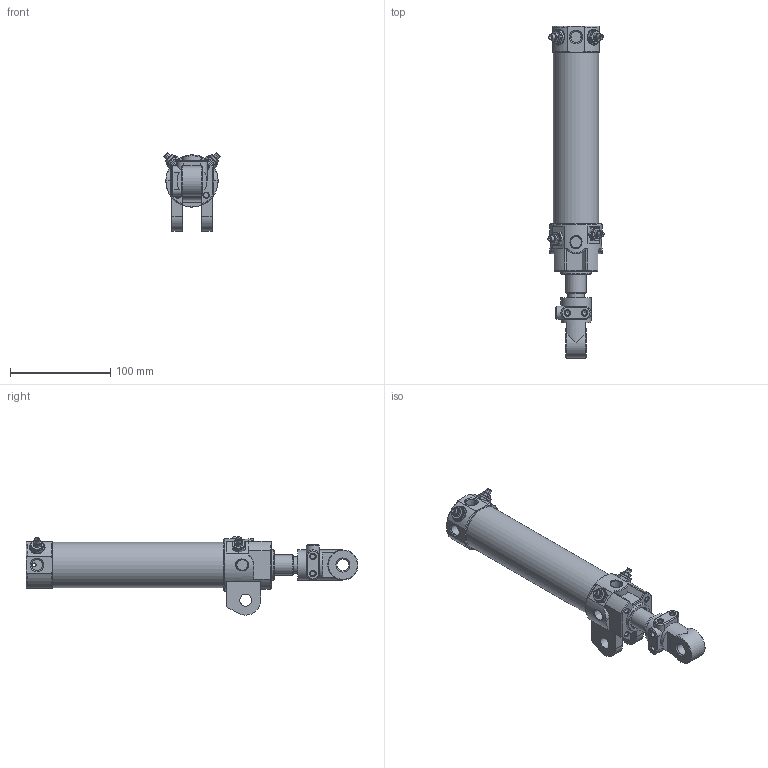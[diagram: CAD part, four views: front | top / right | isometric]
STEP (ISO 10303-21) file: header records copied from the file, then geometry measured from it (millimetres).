
FILE_DESCRIPTION((''),'2;1');
FILE_NAME('I:\3D電子目錄\氣缸\DCK\DCK\DCK-1B-40x125-I.stp','2008-02-26T10:58:45',('Administrator'),(''),'Autodesk Inventor 11','Autodesk Inventor 11','');
FILE_SCHEMA(('AUTOMOTIVE_DESIGN { 1 0 10303 214 1 1 1 1 }'));
Length unit declared in the file: millimetre
Products named in the file (6): DCK-1B-40-I; 緩衝針; 緩衝針-1; 緩衝針-201; 緩衝針-3
Assembly tree (8 placements, depth 3):
  DCK-1B-40-I
    DCK-1B-40-I
    緩衝針  x4
      緩衝針-1
      緩衝針-201
      緩衝針-3
Bounding box: 56.06 x 331 x 78.02 mm (x, y, z)
Volume: 238570.4 mm3; surface area: 109728.3 mm2
Topology: 16 solids, 16 shells, 688 faces, 1580 edges, 982 vertices
Faces by surface type: plane 234, cylinder 209, cone 144, bspline 64, torus 35, sphere 2
Full cylindrical faces by diameter (mm): 2 x1, 3 x3, 3.8 x2, 4 x6, 4.6 x4, 5 x8, 5.1 x4, 5.2 x12, 5.5 x4, 7 x1, 7.25 x1, 7.9 x4, 8 x2, 8.3 x1, 10 x2, 12 x3, 12.8 x4, 16 x3, 20 x1, 21 x1, 22 x3, 23 x1, 24.7 x1, 26 x1, 28 x1, 29 x1, 30 x3, 33 x1, 40 x1, 42 x2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
Entity records: 24212 total; most frequent: CARTESIAN_POINT 14980, DIRECTION 1810, ORIENTED_EDGE 1772, EDGE_CURVE 886, AXIS2_PLACEMENT_3D 781, EDGE_LOOP 625, VERTEX_POINT 617, FACE_OUTER_BOUND 437
